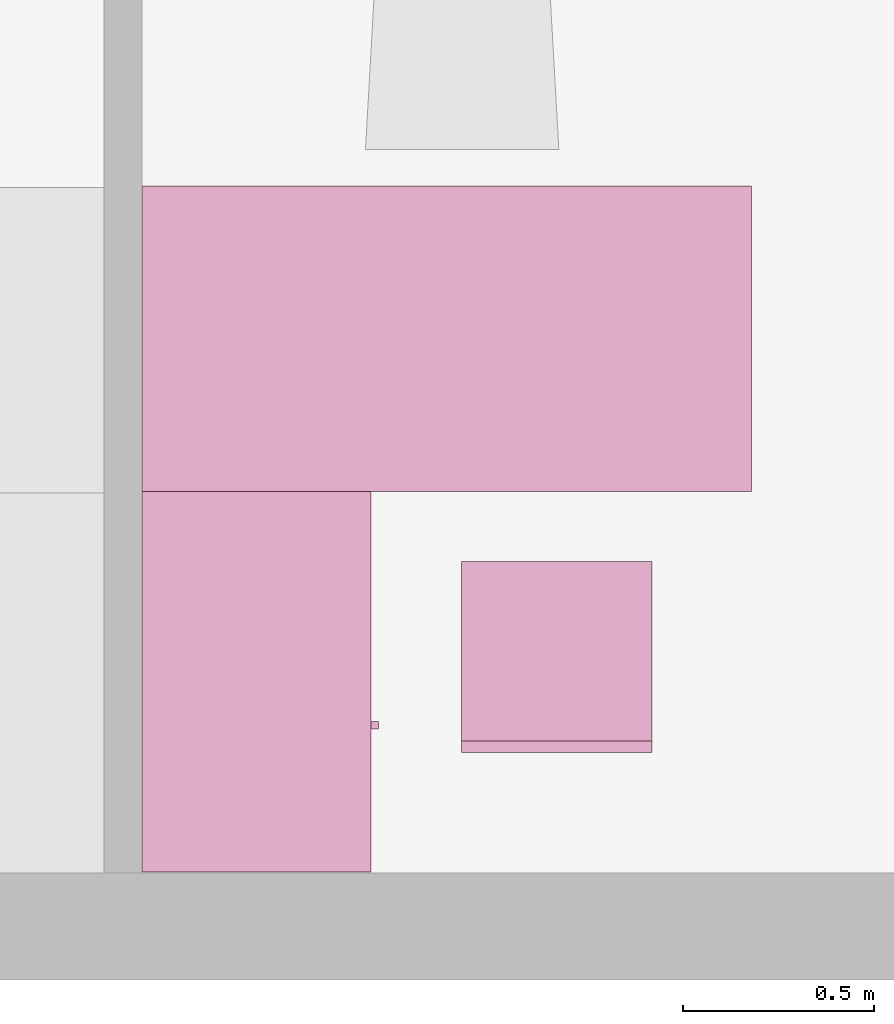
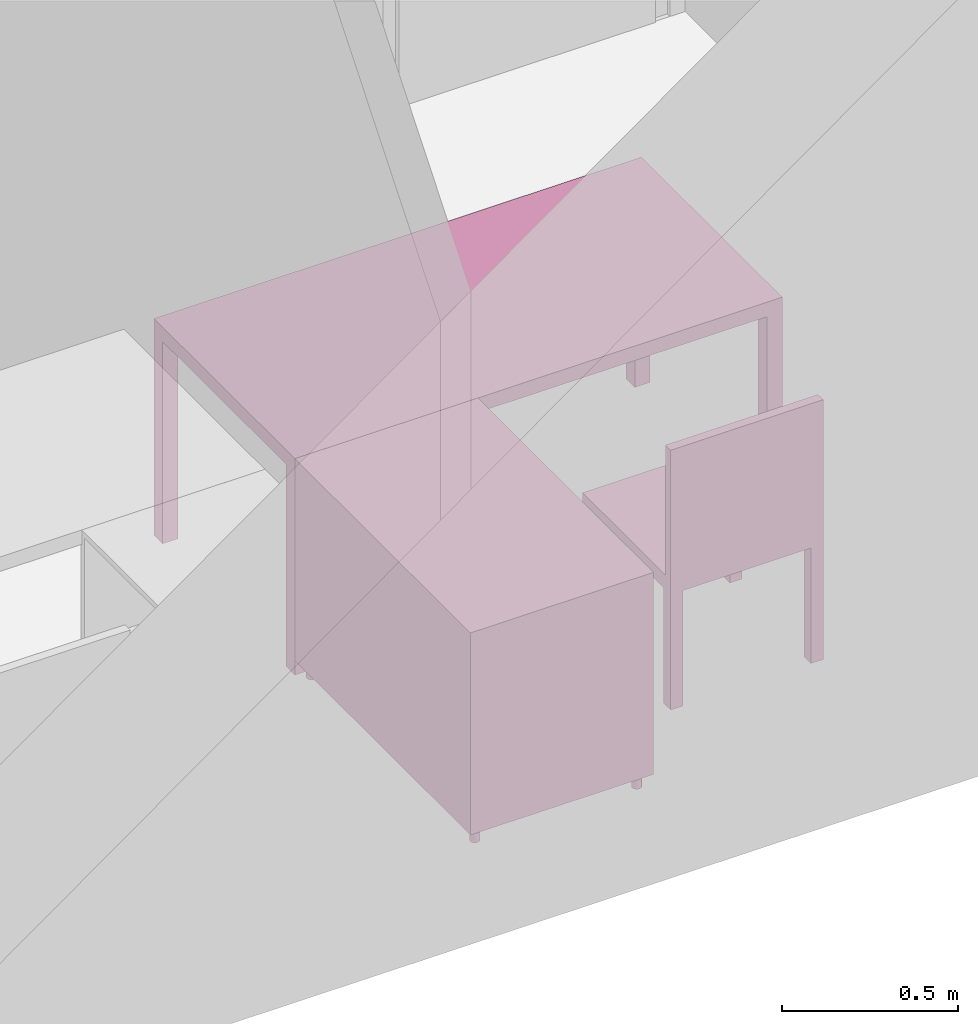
"""IFC4 building model written with IfcOpenShell, lengths in metres."""

import ifcopenshell
import ifcopenshell.guid

model = None  # the IFC model being written
_history = None  # IfcOwnerHistory: only IFC2X3 demands one
_inside = {}  # id of a spatial element -> (the spatial element, [elements in it])
_under = {}  # id of a project, library or spatial element -> (it, [spatial elements below it])
_declared = {}  # id of a project -> (the project, [libraries it declares])
_typed = {}  # id of a type object -> (the type object, [elements of that type])
_made_of = {}  # id of a material, layer set ... -> (it, [elements and type objects made of it])


def new_model(schema):
    """Start an empty IFC model of exactly this schema.

    Asked for "IFC4X3", IfcOpenShell would pick the latest addendum, in which some entities
    have other attributes; the version numbers below select the first issue.
    IFC2X3 requires an IfcOwnerHistory on every rooted entity: one is made here for all.
    """
    global model, _history
    if schema == "IFC4X3":
        model = ifcopenshell.file(schema_version=(4, 3, 0, 0))
    else:
        model = ifcopenshell.file(schema=schema)
    _inside.clear()
    _under.clear()
    _declared.clear()
    _typed.clear()
    _made_of.clear()
    _history = None
    if model.schema == "IFC2X3":
        org = make("IfcOrganization", Name="unknown")
        user = make(
            "IfcPersonAndOrganization",
            ThePerson=make("IfcPerson", FamilyName="unknown"),
            TheOrganization=org,
        )
        app = make(
            "IfcApplication",
            ApplicationDeveloper=org,
            Version="unknown",
            ApplicationFullName="unknown",
            ApplicationIdentifier="unknown",
        )
        _history = make(
            "IfcOwnerHistory",
            OwningUser=user,
            OwningApplication=app,
            ChangeAction="ADDED",
            CreationDate=0,
        )
    return model


def make(cls, **values):
    """One entity of the class cls with the attributes given. An attribute that is None is left unset."""
    return model.create_entity(
        cls, **{name: value for name, value in values.items() if value is not None}
    )


def entity(cls, *values):
    """Any entity or typed value of the class cls, its attributes in the order of the schema. None: left unset."""
    e = model.create_entity(cls)
    for i, value in enumerate(values):
        if value is not None:
            e[i] = value
    return e


def rooted(cls, **values):
    """An entity with a GlobalId (a new one), such as an element, a storey or a relation."""
    return make(cls, GlobalId=ifcopenshell.guid.new(), OwnerHistory=_history, **values)


def si_unit(unit_type, name, prefix=None):
    """IfcSIUnit, for example si_unit("LENGTHUNIT", "METRE", prefix="MILLI")."""
    return make("IfcSIUnit", UnitType=unit_type, Prefix=prefix, Name=name)


def converted_unit(unit_type, name, factor, base, dimensions=None, offset=None):
    """IfcConversionBasedUnit, such as the inch: factor (a typed value) times the base unit."""
    return make(
        "IfcConversionBasedUnit"
        if offset is None
        else "IfcConversionBasedUnitWithOffset",
        ConversionOffset=offset,
        Dimensions=None
        if dimensions is None
        else entity("IfcDimensionalExponents", *dimensions),
        UnitType=unit_type,
        Name=name,
        ConversionFactor=make(
            "IfcMeasureWithUnit", ValueComponent=factor, UnitComponent=base
        ),
    )


def derived_unit(unit_type, elements):
    """IfcDerivedUnit: a product of units, each with its exponent."""
    return make(
        "IfcDerivedUnit",
        Elements=[
            make("IfcDerivedUnitElement", Unit=unit, Exponent=power)
            for unit, power in elements
        ],
        UnitType=unit_type,
    )


def assignment(units):
    """IfcUnitAssignment: the units of a project."""
    return None if units is None else make("IfcUnitAssignment", Units=units)


def point(xyz):
    """IfcCartesianPoint."""
    return None if xyz is None else make("IfcCartesianPoint", Coordinates=xyz)


def direction(xyz):
    """IfcDirection."""
    return None if xyz is None else make("IfcDirection", DirectionRatios=xyz)


def frame(location, z_axis=None, x_axis=None):
    """IfcAxis2Placement3D, a coordinate frame: its origin and axes. An axis left out is left unset."""
    return make(
        "IfcAxis2Placement3D",
        Location=point(location),
        Axis=direction(z_axis),
        RefDirection=direction(x_axis),
    )


def origin():
    """The frame at (0, 0, 0) with its axes left unset."""
    return frame((0.0, 0.0, 0.0))


def place(relative_to, where):
    """IfcLocalPlacement: puts the frame where relative to a parent placement (None: the world)."""
    return make(
        "IfcLocalPlacement", PlacementRelTo=relative_to, RelativePlacement=where
    )


def context(
    kind, dimensions, precision=None, world=None, true_north=None, identifier=None
):
    """IfcGeometricRepresentationContext, for example the 3D "Model" context."""
    return make(
        "IfcGeometricRepresentationContext",
        ContextIdentifier=identifier,
        ContextType=kind,
        CoordinateSpaceDimension=dimensions,
        Precision=precision,
        WorldCoordinateSystem=world,
        TrueNorth=true_north,
    )


def subcontext(parent, identifier, kind, view, scale=None):
    """IfcGeometricRepresentationSubContext, for example "Body" below "Model"."""
    return make(
        "IfcGeometricRepresentationSubContext",
        ContextIdentifier=identifier,
        ContextType=kind,
        ParentContext=parent,
        TargetScale=scale,
        TargetView=view,
    )


def project(units=None, contexts=None):
    """IfcProject with its units and contexts."""
    return rooted(
        "IfcProject",
        Name="project",
        RepresentationContexts=contexts,
        UnitsInContext=assignment(units),
    )


def spatial(cls, under=None, at=None, **own):
    """A site, building, storey or space (cls), placed at a placement, below another one or the project."""
    s = rooted(cls, ObjectPlacement=at, **own)
    if under is not None:
        _under.setdefault(under.id(), (under, []))[1].append(s)
    return s


def faces_of(points, faces, orient=None, outer=None):
    """IfcFace entities. A face is a list of loops; a loop is a list of indices into points, from 0.

    orient and outer hold one flag for each loop. By default every Orientation is true, the
    first loop of a face is its IfcFaceOuterBound and the others are IfcFaceBound.
    """
    made = []
    for i, loops in enumerate(faces):
        bounds = []
        for j, loop in enumerate(loops):
            is_outer = j == 0 if outer is None else outer[i][j]
            bounds.append(
                make(
                    "IfcFaceOuterBound" if is_outer else "IfcFaceBound",
                    Bound=make("IfcPolyLoop", Polygon=[points[k] for k in loop]),
                    Orientation=True if orient is None else orient[i][j],
                )
            )
        made.append(make("IfcFace", Bounds=bounds))
    return made


def faceted_brep(points, faces, orient=None, outer=None, voids=None):
    """IfcFacetedBrep: a solid bounded by flat faces; with voids (closed shells), ...WithVoids."""
    shared = [point(p) for p in points]
    hull = make("IfcClosedShell", CfsFaces=faces_of(shared, faces, orient, outer))
    if voids is None:
        return make("IfcFacetedBrep", Outer=hull)
    return make(
        "IfcFacetedBrepWithVoids",
        Outer=hull,
        Voids=[
            make(cls, CfsFaces=faces_of(shared, fs, o, b)) for cls, fs, o, b in voids
        ],
    )


def shape(context_of_items, identifier, shape_type, items):
    """IfcShapeRepresentation: the items that make up one representation, for example the "Body"."""
    return make(
        "IfcShapeRepresentation",
        ContextOfItems=context_of_items,
        RepresentationIdentifier=identifier,
        RepresentationType=shape_type,
        Items=items,
    )


def made_of(thing, what):
    """Note that an element or type object is made of a material, layer set ...; save() writes the relation."""
    if what is not None:
        _made_of.setdefault(what.id(), (what, []))[1].append(thing)
    return thing


def element(
    cls,
    number,
    at=None,
    inside=None,
    cuts=None,
    type_object=None,
    material=None,
    context=None,
    identifier="Body",
    shape_type=None,
    held_by="IfcProductDefinitionShape",
    body=None,
    shapes=None,
    **own,
):
    """One element of the class cls, such as IfcWall. Its Tag is "e" and its number.

    at: its placement. inside: the storey or other place that contains it. cuts: it is an
    opening in that element (IfcRelVoidsElement). A single representation is given by context,
    identifier, shape_type and body (its items); several are given by shapes. held_by: the class
    of the entity that holds the representations. save() writes the other relations.
    """
    e = rooted(cls, Tag="e%d" % number, ObjectPlacement=at, **own)
    if body is not None:
        shapes = [shape(context, identifier, shape_type, body)]
    if shapes is not None:
        e.Representation = make(held_by, Representations=shapes)
    if inside is not None:
        _inside.setdefault(inside.id(), (inside, []))[1].append(e)
    if cuts is not None:
        rooted(
            "IfcRelVoidsElement", RelatingBuildingElement=cuts, RelatedOpeningElement=e
        )
    if type_object is not None:
        _typed.setdefault(type_object.id(), (type_object, []))[1].append(e)
    return made_of(e, material)


def aggregate(whole, parts):
    """IfcRelAggregates: a whole, such as a stair, and the parts it consists of."""
    return rooted("IfcRelAggregates", RelatingObject=whole, RelatedObjects=parts)


def save(model, path):
    """Write the relations noted so far, then the file.

    IfcRelAggregates (storeys below a building ...), IfcRelContainedInSpatialStructure (elements
    in a storey), IfcRelDefinesByType, IfcRelAssociatesMaterial and IfcRelDeclares: one each for
    every whole, place, type object, material and project.
    """
    for whole, parts in _under.values():
        aggregate(whole, parts)
    for where, things in _inside.values():
        rooted(
            "IfcRelContainedInSpatialStructure",
            RelatedElements=things,
            RelatingStructure=where,
        )
    for kind, things in _typed.values():
        rooted("IfcRelDefinesByType", RelatedObjects=things, RelatingType=kind)
    for what, things in _made_of.values():
        rooted("IfcRelAssociatesMaterial", RelatedObjects=things, RelatingMaterial=what)
    for by, libraries in _declared.values():
        rooted("IfcRelDeclares", RelatingContext=by, RelatedDefinitions=libraries)
    model.write(path)


model = new_model("IFC4")

# Units and contexts
model_context = context("Model", 3, precision=1e-05, world=origin())
body_context = subcontext(model_context, "Body", "Model", "MODEL_VIEW")
ifc_project = project(units=[si_unit("LENGTHUNIT", "METRE"), si_unit("AREAUNIT", "SQUARE_METRE"), si_unit("VOLUMEUNIT", "CUBIC_METRE"), si_unit("MASSUNIT", "GRAM", prefix="KILO"), converted_unit("PLANEANGLEUNIT", "DEGREE", entity("IfcPlaneAngleMeasure", 0.0174532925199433), si_unit("PLANEANGLEUNIT", "RADIAN"), dimensions=[0, 0, 0, 0, 0, 0, 0]), derived_unit("THERMALTRANSMITTANCEUNIT", [(si_unit("POWERUNIT", "WATT"), 1), (si_unit("THERMODYNAMICTEMPERATUREUNIT", "KELVIN"), -1), (si_unit("LENGTHUNIT", "METRE"), -2)]), derived_unit("VOLUMETRICFLOWRATEUNIT", [(si_unit("LENGTHUNIT", "METRE"), 3), (converted_unit("TIMEUNIT", "hour", entity("IfcTimeMeasure", 3600.0), si_unit("TIMEUNIT", "SECOND"), dimensions=[0, 0, 1, 0, 0, 0, 0]), -1), (si_unit("LENGTHUNIT", "METRE"), -1)])], contexts=[model_context])

# Building, storeys
building_placement = place(None, origin())
building = spatial("IfcBuilding", under=ifc_project, at=building_placement, Name="HABITATGE PLURIFAMILIAR", CompositionType="ELEMENT")
storey_1_placement = place(building_placement, frame((0.0, 0.0, 6.25)))
storey_1 = spatial("IfcBuildingStorey", under=building, at=storey_1_placement, Name="PLANTA PRIMERA", CompositionType="ELEMENT", Elevation=6.25)
storey_2_placement = place(storey_1_placement, frame((0.0, 0.0, 3.35)))
storey_2 = spatial("IfcBuildingStorey", under=storey_1, at=storey_2_placement, Name="NOU", CompositionType="PARTIAL")

# Furniture
furniture_1_placement = place(storey_2_placement, frame((413.487424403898, 14.1196401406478, -3.35)))
element("IfcFurniture", 1, at=furniture_1_placement, inside=storey_2, Name="Taula 160X80_P1", context=body_context, shape_type="Brep", body=[
    faceted_brep([(1.546945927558, 0.750069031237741, 0.0), (1.596945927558, 0.750069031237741, 0.0), (1.596945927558, 0.800069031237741, 0.0), (1.546945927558, 0.800069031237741, 0.0), (1.546945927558, 0.800069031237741, 0.7), (1.596945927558, 0.800069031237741, 0.7), (1.596945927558, 0.750069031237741, 0.7), (1.546945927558, 0.750069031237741, 0.7)], [[[0, 1, 2, 3]], [[4, 5, 6, 7]], [[3, 4, 7, 0]], [[2, 5, 4, 3]], [[1, 6, 5, 2]], [[0, 7, 6, 1]]], orient=[[False], [False], [False], [False], [False], [False]]),
    faceted_brep([(1.546945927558, 0.0, 0.0), (1.596945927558, 0.0, 0.0), (1.596945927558, 0.05, 0.0), (1.546945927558, 0.05, 0.0), (1.546945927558, 0.05, 0.7), (1.596945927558, 0.05, 0.7), (1.596945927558, 0.0, 0.7), (1.546945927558, 0.0, 0.7)], [[[0, 1, 2, 3]], [[4, 5, 6, 7]], [[3, 4, 7, 0]], [[2, 5, 4, 3]], [[1, 6, 5, 2]], [[0, 7, 6, 1]]], orient=[[False], [False], [False], [False], [False], [False]]),
    faceted_brep([(0.0, 0.0, 0.7), (1.596945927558, 0.0, 0.7), (1.596945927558, 0.800069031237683, 0.7), (0.0, 0.800069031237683, 0.7), (0.0, 0.800069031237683, 0.75), (1.596945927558, 0.800069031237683, 0.75), (1.596945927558, 0.0, 0.75), (0.0, 0.0, 0.75)], [[[0, 1, 2, 3]], [[4, 5, 6, 7]], [[3, 4, 7, 0]], [[2, 5, 4, 3]], [[1, 6, 5, 2]], [[0, 7, 6, 1]]], orient=[[False], [False], [False], [False], [False], [False]]),
    faceted_brep([(0.0, 0.750069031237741, 0.0), (0.05, 0.750069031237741, 0.0), (0.05, 0.800069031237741, 0.0), (0.0, 0.800069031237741, 0.0), (0.0, 0.800069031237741, 0.7), (0.05, 0.800069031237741, 0.7), (0.05, 0.750069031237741, 0.7), (0.0, 0.750069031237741, 0.7)], [[[0, 1, 2, 3]], [[4, 5, 6, 7]], [[3, 4, 7, 0]], [[2, 5, 4, 3]], [[1, 6, 5, 2]], [[0, 7, 6, 1]]], orient=[[False], [False], [False], [False], [False], [False]]),
    faceted_brep([(0.0, 0.0, 0.0), (0.05, 0.0, 0.0), (0.05, 0.05, 0.0), (0.0, 0.05, 0.0), (0.0, 0.05, 0.7), (0.05, 0.05, 0.7), (0.05, 0.0, 0.7), (0.0, 0.0, 0.7)], [[[0, 1, 2, 3]], [[4, 5, 6, 7]], [[3, 4, 7, 0]], [[2, 5, 4, 3]], [[1, 6, 5, 2]], [[0, 7, 6, 1]]], orient=[[False], [False], [False], [False], [False], [False]]),
])
furniture_2_placement = place(storey_2_placement, frame((413.487424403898, 13.1236662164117, -3.35)))
element("IfcFurniture", 2, at=furniture_2_placement, inside=storey_2, Name="Taula 100X60_P1", context=body_context, shape_type="Brep", body=[
    faceted_brep([(0.0, 1.00000000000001, 0.05), (0.600000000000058, 1.00000000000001, 0.05), (0.600000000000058, 1.00000000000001, 0.07), (0.0, 1.00000000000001, 0.07), (0.600000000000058, 0.0, 0.05), (0.600000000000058, 0.0, 0.07), (0.0, 0.0, 0.05), (0.0, 0.0, 0.07)], [[[0, 1, 2, 3]], [[1, 4, 5, 2]], [[4, 6, 7, 5]], [[6, 0, 3, 7]], [[0, 6, 4, 1]], [[3, 2, 5, 7]]], orient=[[False], [False], [False], [False], [False], [False]]),
    faceted_brep([(0.580000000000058, 1.00000000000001, 0.35), (0.0, 1.00000000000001, 0.35), (0.0, 0.0, 0.35), (0.580000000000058, 0.0, 0.35), (0.0, 1.00000000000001, 0.37), (0.580000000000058, 1.00000000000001, 0.37), (0.580000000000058, 0.0, 0.37), (0.0, 0.0, 0.37)], [[[0, 1, 2, 3]], [[4, 5, 6, 7]], [[1, 0, 5, 4]], [[2, 1, 4, 7]], [[3, 2, 7, 6]], [[0, 3, 6, 5]]], orient=[[False], [False], [False], [False], [False], [False]]),
    faceted_brep([(0.580000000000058, 0.490000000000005, 0.75), (0.580000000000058, 0.490000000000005, 0.05), (0.600000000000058, 0.490000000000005, 0.05), (0.600000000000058, 0.490000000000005, 0.75), (0.580000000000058, 0.0, 0.05), (0.600000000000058, 0.0, 0.05), (0.580000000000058, 0.0, 0.75), (0.600000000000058, 0.0, 0.75)], [[[0, 1, 2, 3]], [[1, 4, 5, 2]], [[4, 6, 7, 5]], [[6, 0, 3, 7]], [[0, 6, 4, 1]], [[3, 2, 5, 7]]], orient=[[False], [False], [False], [False], [False], [False]]),
    faceted_brep([(0.0, 0.980000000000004, 0.75), (0.0, 0.980000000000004, 0.0499999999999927), (0.0, 1.0, 0.0499999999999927), (0.0, 1.0, 0.75), (0.600000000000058, 0.980000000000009, 0.05), (0.600000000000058, 1.00000000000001, 0.05), (0.600000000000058, 0.980000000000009, 0.75), (0.600000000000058, 1.00000000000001, 0.75)], [[[0, 1, 2, 3]], [[1, 4, 5, 2]], [[4, 6, 7, 5]], [[6, 0, 3, 7]], [[0, 6, 4, 1]], [[3, 2, 5, 7]]], orient=[[False], [False], [False], [False], [False], [False]]),
    faceted_brep([(0.0, 0.470000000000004, 0.75), (0.0, 0.470000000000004, 0.0499999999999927), (0.0, 0.490000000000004, 0.0499999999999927), (0.0, 0.490000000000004, 0.75), (0.600000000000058, 0.470000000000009, 0.05), (0.600000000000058, 0.490000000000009, 0.05), (0.600000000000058, 0.470000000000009, 0.75), (0.600000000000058, 0.490000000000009, 0.75)], [[[0, 1, 2, 3]], [[1, 4, 5, 2]], [[4, 6, 7, 5]], [[6, 0, 3, 7]], [[0, 6, 4, 1]], [[3, 2, 5, 7]]], orient=[[False], [False], [False], [False], [False], [False]]),
    faceted_brep([(0.0, 0.47, 0.75000000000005), (0.0, 0.47, 0.0499999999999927), (0.0, 0.490000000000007, 0.0499999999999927), (0.0, 0.490000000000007, 0.75000000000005), (0.58, 0.469999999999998, 0.0499999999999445), (0.58, 0.490000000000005, 0.0499999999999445), (0.580000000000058, 0.469999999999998, 0.750000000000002), (0.580000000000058, 0.490000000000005, 0.750000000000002)], [[[0, 1, 2, 3]], [[1, 4, 5, 2]], [[4, 6, 7, 5]], [[6, 0, 3, 7]], [[0, 6, 4, 1]], [[3, 2, 5, 7]]], orient=[[False], [False], [False], [False], [False], [False]]),
    faceted_brep([(0.0, 0.0, 0.75), (0.0, 0.0, 0.0499999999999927), (0.0, 0.0200000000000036, 0.0499999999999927), (0.0, 0.0200000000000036, 0.75), (0.600000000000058, 0.0, 0.05), (0.600000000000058, 0.0200000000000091, 0.05), (0.600000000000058, 0.0, 0.75), (0.600000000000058, 0.0200000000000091, 0.75)], [[[0, 1, 2, 3]], [[1, 4, 5, 2]], [[4, 6, 7, 5]], [[6, 0, 3, 7]], [[0, 6, 4, 1]], [[3, 2, 5, 7]]], orient=[[False], [False], [False], [False], [False], [False]]),
    faceted_brep([(0.0, 1.00000000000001, 0.73), (0.600000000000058, 1.00000000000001, 0.73), (0.600000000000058, 1.00000000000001, 0.75), (0.0, 1.00000000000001, 0.75), (0.600000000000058, 0.0, 0.73), (0.600000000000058, 0.0, 0.75), (0.0, 0.0, 0.73), (0.0, 0.0, 0.75)], [[[0, 1, 2, 3]], [[1, 4, 5, 2]], [[4, 6, 7, 5]], [[6, 0, 3, 7]], [[0, 6, 4, 1]], [[3, 2, 5, 7]]], orient=[[False], [False], [False], [False], [False], [False]]),
    faceted_brep([(0.0, 0.980000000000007, 0.75), (0.0, 0.980000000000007, 0.05), (0.0200000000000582, 0.980000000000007, 0.05), (0.0200000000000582, 0.980000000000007, 0.75), (0.0, 0.0, 0.05), (0.0200000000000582, 0.0, 0.05), (0.0, 0.0, 0.75), (0.0200000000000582, 0.0, 0.75)], [[[0, 1, 2, 3]], [[1, 4, 5, 2]], [[4, 6, 7, 5]], [[6, 0, 3, 7]], [[0, 6, 4, 1]], [[3, 2, 5, 7]]], orient=[[False], [False], [False], [False], [False], [False]]),
    faceted_brep([(0.600000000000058, 0.374420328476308, 0.35), (0.620000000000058, 0.374420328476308, 0.35), (0.620000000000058, 0.394420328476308, 0.35), (0.600000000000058, 0.394420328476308, 0.35), (0.600000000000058, 0.394420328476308, 0.45), (0.620000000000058, 0.394420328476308, 0.45), (0.620000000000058, 0.374420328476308, 0.45), (0.600000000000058, 0.374420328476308, 0.45)], [[[0, 1, 2, 3]], [[4, 5, 6, 7]], [[3, 4, 7, 0]], [[2, 5, 4, 3]], [[1, 6, 5, 2]], [[0, 7, 6, 1]]], orient=[[False], [False], [False], [False], [False], [False]]),
    faceted_brep([(0.0361788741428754, 0.950063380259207, 0.0), (0.0387728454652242, 0.950290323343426, 0.0), (0.0412880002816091, 0.950964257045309, 0.0), (0.0436479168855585, 0.95206470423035, 0.0), (0.0457808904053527, 0.953558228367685, 0.0), (0.0476221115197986, 0.955399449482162, 0.0), (0.0491156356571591, 0.957532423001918, 0.0), (0.0502160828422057, 0.959892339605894, 0.0), (0.0508900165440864, 0.962407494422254, 0.0), (0.0511169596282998, 0.96500146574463, 0.0), (0.0508900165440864, 0.967595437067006, 0.0), (0.0502160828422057, 0.970110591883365, 0.0), (0.0491156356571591, 0.972470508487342, 0.0), (0.0476221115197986, 0.974603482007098, 0.0), (0.0457808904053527, 0.976444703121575, 0.0), (0.0436479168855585, 0.97793822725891, 0.0), (0.0412880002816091, 0.979038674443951, 0.0), (0.0387728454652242, 0.979712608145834, 0.0), (0.0361788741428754, 0.979939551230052, 0.0), (0.0335849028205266, 0.979712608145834, 0.0), (0.0310697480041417, 0.979038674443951, 0.0), (0.0287098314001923, 0.97793822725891, 0.0), (0.0265768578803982, 0.976444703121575, 0.0), (0.0247356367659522, 0.974603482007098, 0.0), (0.0232421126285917, 0.972470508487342, 0.0), (0.0221416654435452, 0.970110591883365, 0.0), (0.0214677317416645, 0.967595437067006, 0.0), (0.021240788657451, 0.96500146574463, 0.0), (0.0214677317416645, 0.962407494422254, 0.0), (0.0221416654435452, 0.959892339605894, 0.0), (0.0232421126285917, 0.957532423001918, 0.0), (0.0247356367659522, 0.955399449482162, 0.0), (0.0265768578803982, 0.953558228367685, 0.0), (0.0287098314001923, 0.95206470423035, 0.0), (0.0310697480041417, 0.950964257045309, 0.0), (0.0335849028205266, 0.950290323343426, 0.0), (0.0361788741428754, 0.950063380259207, 0.05), (0.0335849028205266, 0.950290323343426, 0.05), (0.0310697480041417, 0.950964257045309, 0.05), (0.0287098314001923, 0.95206470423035, 0.05), (0.0265768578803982, 0.953558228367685, 0.05), (0.0247356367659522, 0.955399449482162, 0.05), (0.0232421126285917, 0.957532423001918, 0.05), (0.0221416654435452, 0.959892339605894, 0.05), (0.0214677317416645, 0.962407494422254, 0.05), (0.021240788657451, 0.96500146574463, 0.05), (0.0214677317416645, 0.967595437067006, 0.05), (0.0221416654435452, 0.970110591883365, 0.05), (0.0232421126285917, 0.972470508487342, 0.05), (0.0247356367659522, 0.974603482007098, 0.05), (0.0265768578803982, 0.976444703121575, 0.05), (0.0287098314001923, 0.97793822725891, 0.05), (0.0310697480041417, 0.979038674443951, 0.05), (0.0335849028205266, 0.979712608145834, 0.05), (0.0361788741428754, 0.979939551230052, 0.05), (0.0387728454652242, 0.979712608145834, 0.05), (0.0412880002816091, 0.979038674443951, 0.05), (0.0436479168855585, 0.97793822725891, 0.05), (0.0457808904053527, 0.976444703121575, 0.05), (0.0476221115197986, 0.974603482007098, 0.05), (0.0491156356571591, 0.972470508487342, 0.05), (0.0502160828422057, 0.970110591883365, 0.05), (0.0508900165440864, 0.967595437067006, 0.05), (0.0511169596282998, 0.96500146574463, 0.05), (0.0508900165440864, 0.962407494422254, 0.05), (0.0502160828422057, 0.959892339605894, 0.05), (0.0491156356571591, 0.957532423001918, 0.05), (0.0476221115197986, 0.955399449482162, 0.05), (0.0457808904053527, 0.953558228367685, 0.05), (0.0436479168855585, 0.95206470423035, 0.05), (0.0412880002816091, 0.950964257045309, 0.05), (0.0387728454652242, 0.950290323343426, 0.05)], [[[0, 1, 2, 3, 4, 5, 6, 7, 8, 9, 10, 11, 12, 13, 14, 15, 16, 17, 18, 19, 20, 21, 22, 23, 24, 25, 26, 27, 28, 29, 30, 31, 32, 33, 34, 35]], [[36, 37, 38, 39, 40, 41, 42, 43, 44, 45, 46, 47, 48, 49, 50, 51, 52, 53, 54, 55, 56, 57, 58, 59, 60, 61, 62, 63, 64, 65, 66, 67, 68, 69, 70, 71]], [[1, 0, 36, 71]], [[2, 1, 71, 70]], [[3, 2, 70, 69]], [[4, 3, 69, 68]], [[5, 4, 68, 67]], [[6, 5, 67, 66]], [[7, 6, 66, 65]], [[8, 7, 65, 64]], [[9, 8, 64, 63]], [[10, 9, 63, 62]], [[11, 10, 62, 61]], [[12, 11, 61, 60]], [[13, 12, 60, 59]], [[14, 13, 59, 58]], [[15, 14, 58, 57]], [[16, 15, 57, 56]], [[17, 16, 56, 55]], [[18, 17, 55, 54]], [[19, 18, 54, 53]], [[20, 19, 53, 52]], [[21, 20, 52, 51]], [[22, 21, 51, 50]], [[23, 22, 50, 49]], [[24, 23, 49, 48]], [[25, 24, 48, 47]], [[26, 25, 47, 46]], [[27, 26, 46, 45]], [[28, 27, 45, 44]], [[29, 28, 44, 43]], [[30, 29, 43, 42]], [[31, 30, 42, 41]], [[32, 31, 41, 40]], [[33, 32, 40, 39]], [[34, 33, 39, 38]], [[35, 34, 38, 37]], [[0, 35, 37, 36]]], orient=[[False], [False], [False], [False], [False], [False], [False], [False], [False], [False], [False], [False], [False], [False], [False], [False], [False], [False], [False], [False], [False], [False], [False], [False], [False], [False], [False], [False], [False], [False], [False], [False], [False], [False], [False], [False], [False], [False]]),
    faceted_brep([(0.566178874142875, 0.950063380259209, 0.0), (0.568772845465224, 0.950290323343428, 0.0), (0.571288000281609, 0.950964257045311, 0.0), (0.573647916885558, 0.952064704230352, 0.0), (0.575780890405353, 0.953558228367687, 0.0), (0.577622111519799, 0.955399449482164, 0.0), (0.579115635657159, 0.95753242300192, 0.0), (0.580216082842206, 0.959892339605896, 0.0), (0.580890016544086, 0.962407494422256, 0.0), (0.5811169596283, 0.965001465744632, 0.0), (0.580890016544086, 0.967595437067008, 0.0), (0.580216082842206, 0.970110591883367, 0.0), (0.579115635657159, 0.972470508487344, 0.0), (0.577622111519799, 0.9746034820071, 0.0), (0.575780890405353, 0.976444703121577, 0.0), (0.573647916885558, 0.977938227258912, 0.0), (0.571288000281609, 0.979038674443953, 0.0), (0.568772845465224, 0.979712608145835, 0.0), (0.566178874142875, 0.979939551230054, 0.0), (0.563584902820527, 0.979712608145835, 0.0), (0.561069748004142, 0.979038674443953, 0.0), (0.558709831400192, 0.977938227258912, 0.0), (0.556576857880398, 0.976444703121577, 0.0), (0.554735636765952, 0.9746034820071, 0.0), (0.553242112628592, 0.972470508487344, 0.0), (0.552141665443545, 0.970110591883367, 0.0), (0.551467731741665, 0.967595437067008, 0.0), (0.551240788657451, 0.965001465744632, 0.0), (0.551467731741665, 0.962407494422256, 0.0), (0.552141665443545, 0.959892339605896, 0.0), (0.553242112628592, 0.95753242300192, 0.0), (0.554735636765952, 0.955399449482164, 0.0), (0.556576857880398, 0.953558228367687, 0.0), (0.558709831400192, 0.952064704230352, 0.0), (0.561069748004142, 0.950964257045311, 0.0), (0.563584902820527, 0.950290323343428, 0.0), (0.566178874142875, 0.950063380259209, 0.05), (0.563584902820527, 0.950290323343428, 0.05), (0.561069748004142, 0.950964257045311, 0.05), (0.558709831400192, 0.952064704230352, 0.05), (0.556576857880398, 0.953558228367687, 0.05), (0.554735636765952, 0.955399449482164, 0.05), (0.553242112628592, 0.95753242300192, 0.05), (0.552141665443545, 0.959892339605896, 0.05), (0.551467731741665, 0.962407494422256, 0.05), (0.551240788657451, 0.965001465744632, 0.05), (0.551467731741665, 0.967595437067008, 0.05), (0.552141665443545, 0.970110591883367, 0.05), (0.553242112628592, 0.972470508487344, 0.05), (0.554735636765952, 0.9746034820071, 0.05), (0.556576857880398, 0.976444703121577, 0.05), (0.558709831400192, 0.977938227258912, 0.05), (0.561069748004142, 0.979038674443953, 0.05), (0.563584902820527, 0.979712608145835, 0.05), (0.566178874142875, 0.979939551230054, 0.05), (0.568772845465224, 0.979712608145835, 0.05), (0.571288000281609, 0.979038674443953, 0.05), (0.573647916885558, 0.977938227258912, 0.05), (0.575780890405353, 0.976444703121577, 0.05), (0.577622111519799, 0.9746034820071, 0.05), (0.579115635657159, 0.972470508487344, 0.05), (0.580216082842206, 0.970110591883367, 0.05), (0.580890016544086, 0.967595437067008, 0.05), (0.5811169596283, 0.965001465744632, 0.05), (0.580890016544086, 0.962407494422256, 0.05), (0.580216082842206, 0.959892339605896, 0.05), (0.579115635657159, 0.95753242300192, 0.05), (0.577622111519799, 0.955399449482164, 0.05), (0.575780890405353, 0.953558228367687, 0.05), (0.573647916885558, 0.952064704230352, 0.05), (0.571288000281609, 0.950964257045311, 0.05), (0.568772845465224, 0.950290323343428, 0.05)], [[[0, 1, 2, 3, 4, 5, 6, 7, 8, 9, 10, 11, 12, 13, 14, 15, 16, 17, 18, 19, 20, 21, 22, 23, 24, 25, 26, 27, 28, 29, 30, 31, 32, 33, 34, 35]], [[36, 37, 38, 39, 40, 41, 42, 43, 44, 45, 46, 47, 48, 49, 50, 51, 52, 53, 54, 55, 56, 57, 58, 59, 60, 61, 62, 63, 64, 65, 66, 67, 68, 69, 70, 71]], [[1, 0, 36, 71]], [[2, 1, 71, 70]], [[3, 2, 70, 69]], [[4, 3, 69, 68]], [[5, 4, 68, 67]], [[6, 5, 67, 66]], [[7, 6, 66, 65]], [[8, 7, 65, 64]], [[9, 8, 64, 63]], [[10, 9, 63, 62]], [[11, 10, 62, 61]], [[12, 11, 61, 60]], [[13, 12, 60, 59]], [[14, 13, 59, 58]], [[15, 14, 58, 57]], [[16, 15, 57, 56]], [[17, 16, 56, 55]], [[18, 17, 55, 54]], [[19, 18, 54, 53]], [[20, 19, 53, 52]], [[21, 20, 52, 51]], [[22, 21, 51, 50]], [[23, 22, 50, 49]], [[24, 23, 49, 48]], [[25, 24, 48, 47]], [[26, 25, 47, 46]], [[27, 26, 46, 45]], [[28, 27, 45, 44]], [[29, 28, 44, 43]], [[30, 29, 43, 42]], [[31, 30, 42, 41]], [[32, 31, 41, 40]], [[33, 32, 40, 39]], [[34, 33, 39, 38]], [[35, 34, 38, 37]], [[0, 35, 37, 36]]], orient=[[False], [False], [False], [False], [False], [False], [False], [False], [False], [False], [False], [False], [False], [False], [False], [False], [False], [False], [False], [False], [False], [False], [False], [False], [False], [False], [False], [False], [False], [False], [False], [False], [False], [False], [False], [False], [False], [False]]),
    faceted_brep([(0.565, 0.0200170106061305, 0.0), (0.567593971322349, 0.0202439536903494, 0.0), (0.570109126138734, 0.0209178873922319, 0.0), (0.572469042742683, 0.022018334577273, 0.0), (0.574602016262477, 0.023511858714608, 0.0), (0.576443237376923, 0.0253530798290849, 0.0), (0.577936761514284, 0.0274860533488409, 0.0), (0.57903720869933, 0.0298459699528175, 0.0), (0.579711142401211, 0.032361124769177, 0.0), (0.579938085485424, 0.0349550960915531, 0.0), (0.579711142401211, 0.0375490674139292, 0.0), (0.57903720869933, 0.0400642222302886, 0.0), (0.577936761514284, 0.0424241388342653, 0.0), (0.576443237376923, 0.0445571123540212, 0.0), (0.574602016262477, 0.0463983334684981, 0.0), (0.572469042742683, 0.0478918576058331, 0.0), (0.570109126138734, 0.0489923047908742, 0.0), (0.567593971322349, 0.0496662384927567, 0.0), (0.565, 0.0498931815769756, 0.0), (0.562406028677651, 0.0496662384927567, 0.0), (0.559890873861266, 0.0489923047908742, 0.0), (0.557530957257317, 0.0478918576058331, 0.0), (0.555397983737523, 0.0463983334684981, 0.0), (0.553556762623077, 0.0445571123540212, 0.0), (0.552063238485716, 0.0424241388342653, 0.0), (0.55096279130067, 0.0400642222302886, 0.0), (0.550288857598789, 0.0375490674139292, 0.0), (0.550061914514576, 0.0349550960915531, 0.0), (0.550288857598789, 0.032361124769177, 0.0), (0.55096279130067, 0.0298459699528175, 0.0), (0.552063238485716, 0.0274860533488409, 0.0), (0.553556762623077, 0.0253530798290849, 0.0), (0.555397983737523, 0.023511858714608, 0.0), (0.557530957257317, 0.022018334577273, 0.0), (0.559890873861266, 0.0209178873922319, 0.0), (0.562406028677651, 0.0202439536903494, 0.0), (0.565, 0.0200170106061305, 0.05), (0.562406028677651, 0.0202439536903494, 0.05), (0.559890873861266, 0.0209178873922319, 0.05), (0.557530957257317, 0.022018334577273, 0.05), (0.555397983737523, 0.023511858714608, 0.05), (0.553556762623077, 0.0253530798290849, 0.05), (0.552063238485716, 0.0274860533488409, 0.05), (0.55096279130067, 0.0298459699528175, 0.05), (0.550288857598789, 0.032361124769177, 0.05), (0.550061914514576, 0.0349550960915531, 0.05), (0.550288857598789, 0.0375490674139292, 0.05), (0.55096279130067, 0.0400642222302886, 0.05), (0.552063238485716, 0.0424241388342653, 0.05), (0.553556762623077, 0.0445571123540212, 0.05), (0.555397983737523, 0.0463983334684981, 0.05), (0.557530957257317, 0.0478918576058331, 0.05), (0.559890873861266, 0.0489923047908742, 0.05), (0.562406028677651, 0.0496662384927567, 0.05), (0.565, 0.0498931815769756, 0.05), (0.567593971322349, 0.0496662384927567, 0.05), (0.570109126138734, 0.0489923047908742, 0.05), (0.572469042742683, 0.0478918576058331, 0.05), (0.574602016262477, 0.0463983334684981, 0.05), (0.576443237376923, 0.0445571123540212, 0.05), (0.577936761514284, 0.0424241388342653, 0.05), (0.57903720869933, 0.0400642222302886, 0.05), (0.579711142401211, 0.0375490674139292, 0.05), (0.579938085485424, 0.0349550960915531, 0.05), (0.579711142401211, 0.032361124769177, 0.05), (0.57903720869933, 0.0298459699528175, 0.05), (0.577936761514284, 0.0274860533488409, 0.05), (0.576443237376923, 0.0253530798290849, 0.05), (0.574602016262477, 0.023511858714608, 0.05), (0.572469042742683, 0.022018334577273, 0.05), (0.570109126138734, 0.0209178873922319, 0.05), (0.567593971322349, 0.0202439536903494, 0.05)], [[[0, 1, 2, 3, 4, 5, 6, 7, 8, 9, 10, 11, 12, 13, 14, 15, 16, 17, 18, 19, 20, 21, 22, 23, 24, 25, 26, 27, 28, 29, 30, 31, 32, 33, 34, 35]], [[36, 37, 38, 39, 40, 41, 42, 43, 44, 45, 46, 47, 48, 49, 50, 51, 52, 53, 54, 55, 56, 57, 58, 59, 60, 61, 62, 63, 64, 65, 66, 67, 68, 69, 70, 71]], [[1, 0, 36, 71]], [[2, 1, 71, 70]], [[3, 2, 70, 69]], [[4, 3, 69, 68]], [[5, 4, 68, 67]], [[6, 5, 67, 66]], [[7, 6, 66, 65]], [[8, 7, 65, 64]], [[9, 8, 64, 63]], [[10, 9, 63, 62]], [[11, 10, 62, 61]], [[12, 11, 61, 60]], [[13, 12, 60, 59]], [[14, 13, 59, 58]], [[15, 14, 58, 57]], [[16, 15, 57, 56]], [[17, 16, 56, 55]], [[18, 17, 55, 54]], [[19, 18, 54, 53]], [[20, 19, 53, 52]], [[21, 20, 52, 51]], [[22, 21, 51, 50]], [[23, 22, 50, 49]], [[24, 23, 49, 48]], [[25, 24, 48, 47]], [[26, 25, 47, 46]], [[27, 26, 46, 45]], [[28, 27, 45, 44]], [[29, 28, 44, 43]], [[30, 29, 43, 42]], [[31, 30, 42, 41]], [[32, 31, 41, 40]], [[33, 32, 40, 39]], [[34, 33, 39, 38]], [[35, 34, 38, 37]], [[0, 35, 37, 36]]], orient=[[False], [False], [False], [False], [False], [False], [False], [False], [False], [False], [False], [False], [False], [False], [False], [False], [False], [False], [False], [False], [False], [False], [False], [False], [False], [False], [False], [False], [False], [False], [False], [False], [False], [False], [False], [False], [False], [False]]),
    faceted_brep([(0.0349662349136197, 0.0203520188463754, 0.0), (0.0375602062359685, 0.0205789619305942, 0.0), (0.0400753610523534, 0.0212528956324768, 0.0), (0.0424352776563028, 0.0223533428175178, 0.0), (0.044568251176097, 0.0238468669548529, 0.0), (0.0464094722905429, 0.0256880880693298, 0.0), (0.0479029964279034, 0.0278210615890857, 0.0), (0.0490034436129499, 0.0301809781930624, 0.0), (0.0496773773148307, 0.0326961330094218, 0.0), (0.0499043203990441, 0.0352901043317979, 0.0), (0.0496773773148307, 0.037884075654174, 0.0), (0.0490034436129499, 0.0403992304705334, 0.0), (0.0479029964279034, 0.0427591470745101, 0.0), (0.0464094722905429, 0.0448921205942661, 0.0), (0.044568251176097, 0.046733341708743, 0.0), (0.0424352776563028, 0.048226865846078, 0.0), (0.0400753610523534, 0.049327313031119, 0.0), (0.0375602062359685, 0.0500012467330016, 0.0), (0.0349662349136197, 0.0502281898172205, 0.0), (0.0323722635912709, 0.0500012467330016, 0.0), (0.029857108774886, 0.049327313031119, 0.0), (0.0274971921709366, 0.048226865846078, 0.0), (0.0253642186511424, 0.046733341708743, 0.0), (0.0235229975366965, 0.0448921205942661, 0.0), (0.022029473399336, 0.0427591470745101, 0.0), (0.0209290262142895, 0.0403992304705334, 0.0), (0.0202550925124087, 0.037884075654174, 0.0), (0.0200281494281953, 0.0352901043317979, 0.0), (0.0202550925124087, 0.0326961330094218, 0.0), (0.0209290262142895, 0.0301809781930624, 0.0), (0.022029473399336, 0.0278210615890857, 0.0), (0.0235229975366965, 0.0256880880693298, 0.0), (0.0253642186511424, 0.0238468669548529, 0.0), (0.0274971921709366, 0.0223533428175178, 0.0), (0.029857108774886, 0.0212528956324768, 0.0), (0.0323722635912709, 0.0205789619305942, 0.0), (0.0349662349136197, 0.0203520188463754, 0.05), (0.0323722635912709, 0.0205789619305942, 0.05), (0.029857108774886, 0.0212528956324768, 0.05), (0.0274971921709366, 0.0223533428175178, 0.05), (0.0253642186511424, 0.0238468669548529, 0.05), (0.0235229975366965, 0.0256880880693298, 0.05), (0.022029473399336, 0.0278210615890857, 0.05), (0.0209290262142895, 0.0301809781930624, 0.05), (0.0202550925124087, 0.0326961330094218, 0.05), (0.0200281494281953, 0.0352901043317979, 0.05), (0.0202550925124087, 0.037884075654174, 0.05), (0.0209290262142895, 0.0403992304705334, 0.05), (0.022029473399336, 0.0427591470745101, 0.05), (0.0235229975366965, 0.0448921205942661, 0.05), (0.0253642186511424, 0.046733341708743, 0.05), (0.0274971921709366, 0.048226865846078, 0.05), (0.029857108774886, 0.049327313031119, 0.05), (0.0323722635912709, 0.0500012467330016, 0.05), (0.0349662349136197, 0.0502281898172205, 0.05), (0.0375602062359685, 0.0500012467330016, 0.05), (0.0400753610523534, 0.049327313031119, 0.05), (0.0424352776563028, 0.048226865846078, 0.05), (0.044568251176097, 0.046733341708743, 0.05), (0.0464094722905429, 0.0448921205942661, 0.05), (0.0479029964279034, 0.0427591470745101, 0.05), (0.0490034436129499, 0.0403992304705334, 0.05), (0.0496773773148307, 0.037884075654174, 0.05), (0.0499043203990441, 0.0352901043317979, 0.05), (0.0496773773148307, 0.0326961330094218, 0.05), (0.0490034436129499, 0.0301809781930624, 0.05), (0.0479029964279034, 0.0278210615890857, 0.05), (0.0464094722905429, 0.0256880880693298, 0.05), (0.044568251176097, 0.0238468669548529, 0.05), (0.0424352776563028, 0.0223533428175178, 0.05), (0.0400753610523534, 0.0212528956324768, 0.05), (0.0375602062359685, 0.0205789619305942, 0.05)], [[[0, 1, 2, 3, 4, 5, 6, 7, 8, 9, 10, 11, 12, 13, 14, 15, 16, 17, 18, 19, 20, 21, 22, 23, 24, 25, 26, 27, 28, 29, 30, 31, 32, 33, 34, 35]], [[36, 37, 38, 39, 40, 41, 42, 43, 44, 45, 46, 47, 48, 49, 50, 51, 52, 53, 54, 55, 56, 57, 58, 59, 60, 61, 62, 63, 64, 65, 66, 67, 68, 69, 70, 71]], [[1, 0, 36, 71]], [[2, 1, 71, 70]], [[3, 2, 70, 69]], [[4, 3, 69, 68]], [[5, 4, 68, 67]], [[6, 5, 67, 66]], [[7, 6, 66, 65]], [[8, 7, 65, 64]], [[9, 8, 64, 63]], [[10, 9, 63, 62]], [[11, 10, 62, 61]], [[12, 11, 61, 60]], [[13, 12, 60, 59]], [[14, 13, 59, 58]], [[15, 14, 58, 57]], [[16, 15, 57, 56]], [[17, 16, 56, 55]], [[18, 17, 55, 54]], [[19, 18, 54, 53]], [[20, 19, 53, 52]], [[21, 20, 52, 51]], [[22, 21, 51, 50]], [[23, 22, 50, 49]], [[24, 23, 49, 48]], [[25, 24, 48, 47]], [[26, 25, 47, 46]], [[27, 26, 46, 45]], [[28, 27, 45, 44]], [[29, 28, 44, 43]], [[30, 29, 43, 42]], [[31, 30, 42, 41]], [[32, 31, 41, 40]], [[33, 32, 40, 39]], [[34, 33, 39, 38]], [[35, 34, 38, 37]], [[0, 35, 37, 36]]], orient=[[False], [False], [False], [False], [False], [False], [False], [False], [False], [False], [False], [False], [False], [False], [False], [False], [False], [False], [False], [False], [False], [False], [False], [False], [False], [False], [False], [False], [False], [False], [False], [False], [False], [False], [False], [False], [False], [False]]),
])
furniture_3_placement = place(storey_2_placement, frame((414.323881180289, 13.4361518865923, -3.34942958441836)))
element("IfcFurniture", 3, at=furniture_3_placement, inside=storey_2, Name="Cadira d'Oficina_P1", context=body_context, shape_type="Brep", body=[
    faceted_brep([(0.5, 0.5, 0.4), (0.0, 0.5, 0.4), (0.0, 0.0, 0.4), (0.5, 0.0, 0.4), (0.5, 0.0, 0.45), (0.0, 0.0, 0.45), (0.0, 0.5, 0.45), (0.5, 0.5, 0.45)], [[[0, 1, 2, 3]], [[4, 5, 6, 7]], [[3, 4, 7, 0]], [[2, 5, 4, 3]], [[1, 6, 5, 2]], [[0, 7, 6, 1]]], orient=[[False], [False], [False], [False], [False], [False]]),
    faceted_brep([(0.0, 0.04, 0.0), (0.0, 0.0, 0.0), (0.04, 0.0, 0.0), (0.04, 0.04, 0.0), (0.04, 0.04, 0.4), (0.04, 0.0, 0.4), (0.0, 0.0, 0.4), (0.0, 0.04, 0.4)], [[[0, 1, 2, 3]], [[4, 5, 6, 7]], [[3, 4, 7, 0]], [[2, 5, 4, 3]], [[1, 6, 5, 2]], [[0, 7, 6, 1]]], orient=[[False], [False], [False], [False], [False], [False]]),
    faceted_brep([(0.0, 0.5, 0.0), (0.0, 0.46, 0.0), (0.04, 0.46, 0.0), (0.04, 0.5, 0.0), (0.04, 0.5, 0.4), (0.04, 0.46, 0.4), (0.0, 0.46, 0.4), (0.0, 0.5, 0.4)], [[[0, 1, 2, 3]], [[4, 5, 6, 7]], [[3, 4, 7, 0]], [[2, 5, 4, 3]], [[1, 6, 5, 2]], [[0, 7, 6, 1]]], orient=[[False], [False], [False], [False], [False], [False]]),
    faceted_brep([(0.46, 0.04, 0.0), (0.46, 0.0, 0.0), (0.5, 0.0, 0.0), (0.5, 0.04, 0.0), (0.5, 0.04, 0.4), (0.5, 0.0, 0.4), (0.46, 0.0, 0.4), (0.46, 0.04, 0.4)], [[[0, 1, 2, 3]], [[4, 5, 6, 7]], [[3, 4, 7, 0]], [[2, 5, 4, 3]], [[1, 6, 5, 2]], [[0, 7, 6, 1]]], orient=[[False], [False], [False], [False], [False], [False]]),
    faceted_brep([(0.46, 0.5, 0.0), (0.46, 0.46, 0.0), (0.5, 0.46, 0.0), (0.5, 0.5, 0.0), (0.5, 0.5, 0.4), (0.5, 0.46, 0.4), (0.46, 0.46, 0.4), (0.46, 0.5, 0.4)], [[[0, 1, 2, 3]], [[4, 5, 6, 7]], [[3, 4, 7, 0]], [[2, 5, 4, 3]], [[1, 6, 5, 2]], [[0, 7, 6, 1]]], orient=[[False], [False], [False], [False], [False], [False]]),
    faceted_brep([(0.0, 0.03, 0.45), (0.0, 0.0, 0.45), (0.5, 0.0, 0.45), (0.5, 0.03, 0.45), (0.5, 0.03, 0.9), (0.5, 0.0, 0.9), (0.0, 0.0, 0.9), (0.0, 0.03, 0.9)], [[[0, 1, 2, 3]], [[4, 5, 6, 7]], [[3, 4, 7, 0]], [[2, 5, 4, 3]], [[1, 6, 5, 2]], [[0, 7, 6, 1]]], orient=[[False], [False], [False], [False], [False], [False]]),
])

save(model, "model.ifc")
